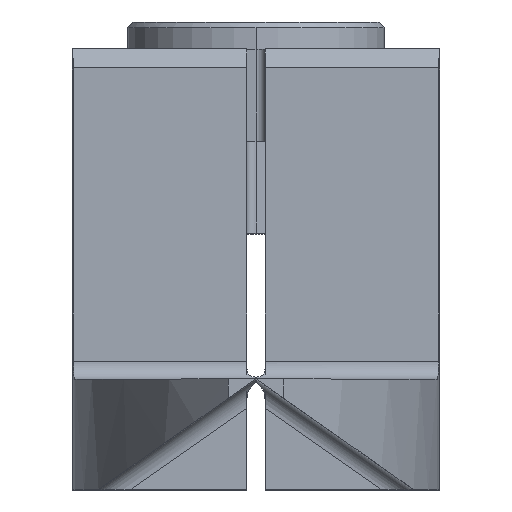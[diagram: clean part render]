
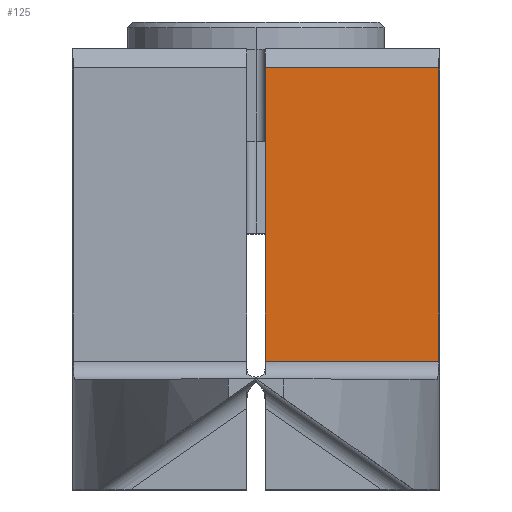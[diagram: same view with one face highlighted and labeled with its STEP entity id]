
A CAD part, top view. The second image highlights one B-rep face of the part: STEP entity #125.
In plain terms, the highlighted planar face has unit normal (0, 0, 1).
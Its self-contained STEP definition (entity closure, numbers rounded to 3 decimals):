
#114 = ORIENTED_EDGE ( 'NONE', *, *, #4230, .T. ) ;
#125 = ADVANCED_FACE ( 'NONE', ( #2482 ), #2948, .T. ) ;
#409 = VECTOR ( 'NONE', #1909, 1000. ) ;
#715 = EDGE_CURVE ( 'NONE', #4221, #2626, #3321, .T. ) ;
#942 = DIRECTION ( 'NONE',  ( 0., -1., 0. ) ) ;
#1101 = CARTESIAN_POINT ( 'NONE',  ( 0.5, 9., 27. ) ) ;
#1458 = CARTESIAN_POINT ( 'NONE',  ( 0.5, -7., 27. ) ) ;
#1660 = VERTEX_POINT ( 'NONE', #1101 ) ;
#1755 = EDGE_CURVE ( 'NONE', #3794, #1660, #3376, .T. ) ;
#1761 = CARTESIAN_POINT ( 'NONE',  ( 9.938, -7., 27. ) ) ;
#1848 = EDGE_CURVE ( 'NONE', #1660, #4221, #2185, .T. ) ;
#1909 = DIRECTION ( 'NONE',  ( 0., 1., 0. ) ) ;
#2185 = LINE ( 'NONE', #4485, #3041 ) ;
#2188 = CARTESIAN_POINT ( 'NONE',  ( 0.5, -2., 27. ) ) ;
#2195 = DIRECTION ( 'NONE',  ( 1., 0., 0. ) ) ;
#2367 = CARTESIAN_POINT ( 'NONE',  ( 9.938, -2., 27. ) ) ;
#2385 = LINE ( 'NONE', #3881, #4452 ) ;
#2482 = FACE_OUTER_BOUND ( 'NONE', #3879, .T. ) ;
#2626 = VERTEX_POINT ( 'NONE', #1761 ) ;
#2948 = PLANE ( 'NONE',  #3476 ) ;
#3041 = VECTOR ( 'NONE', #2195, 1000. ) ;
#3087 = ORIENTED_EDGE ( 'NONE', *, *, #715, .F. ) ;
#3209 = VECTOR ( 'NONE', #942, 1000. ) ;
#3321 = LINE ( 'NONE', #2367, #3209 ) ;
#3345 = DIRECTION ( 'NONE',  ( 0., 0., 1. ) ) ;
#3376 = LINE ( 'NONE', #2188, #409 ) ;
#3476 = AXIS2_PLACEMENT_3D ( 'NONE', #4005, #3345, #3941 ) ;
#3522 = CARTESIAN_POINT ( 'NONE',  ( 9.938, 9., 27. ) ) ;
#3794 = VERTEX_POINT ( 'NONE', #1458 ) ;
#3879 = EDGE_LOOP ( 'NONE', ( #4585, #3919, #114, #3087 ) ) ;
#3881 = CARTESIAN_POINT ( 'NONE',  ( 5.219, -7., 27. ) ) ;
#3919 = ORIENTED_EDGE ( 'NONE', *, *, #1755, .F. ) ;
#3941 = DIRECTION ( 'NONE',  ( 1., 0., 0. ) ) ;
#4005 = CARTESIAN_POINT ( 'NONE',  ( 0.5, -7., 27. ) ) ;
#4221 = VERTEX_POINT ( 'NONE', #3522 ) ;
#4230 = EDGE_CURVE ( 'NONE', #3794, #2626, #2385, .T. ) ;
#4452 = VECTOR ( 'NONE', #4619, 1000. ) ;
#4485 = CARTESIAN_POINT ( 'NONE',  ( 5.271, 9., 27. ) ) ;
#4585 = ORIENTED_EDGE ( 'NONE', *, *, #1848, .F. ) ;
#4619 = DIRECTION ( 'NONE',  ( 1., 0., 0. ) ) ;
